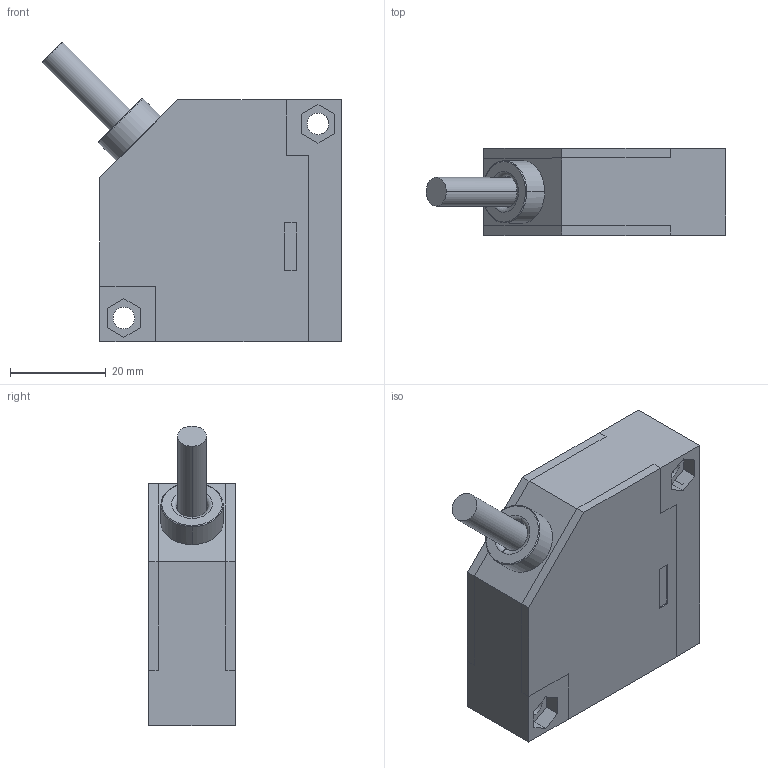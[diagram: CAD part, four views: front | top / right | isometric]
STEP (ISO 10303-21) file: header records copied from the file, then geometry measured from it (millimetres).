
FILE_DESCRIPTION((''),'2;1');
FILE_NAME('EJ-T50N1_EJ-T5N1_EJ-T50N2_EJ-T5_ASM','2018-08-13T11:04:32',('Administrator'),(''),'CREO PARAMETRIC BY PTC INC, 2016390','CREO PARAMETRIC BY PTC INC, 2016390','');
FILE_SCHEMA(('CONFIG_CONTROL_DESIGN'));
Length unit declared in the file: millimetre
Products named in the file (8): EJ-30N1-MAINBODY_141_1; EJ-30N1-MAINBODY_141_2; EJ-30N1-MAINBODY_141_ASM; EJ-30N1-GLASS_42; EJ_COVER_2; PRT0001_2; ASMEJ-30N1_ASM_111_ASM; EJ-T50N1_EJ-T5N1_EJ-T50N2_EJ-T5_ASM
Assembly tree (7 placements, depth 4):
  EJ-T50N1_EJ-T5N1_EJ-T50N2_EJ-T5_ASM
    ASMEJ-30N1_ASM_111_ASM
      EJ-30N1-MAINBODY_141_ASM
        EJ-30N1-MAINBODY_141_1
        EJ-30N1-MAINBODY_141_2
      EJ-30N1-GLASS_42
      EJ_COVER_2
      PRT0001_2
Bounding box: 62.55 x 18.1 x 62.55 mm (x, y, z)
Volume: 18583.2 mm3; surface area: 20500.7 mm2
Topology: 5 solids, 5 shells, 208 faces, 579 edges, 381 vertices
Faces by surface type: plane 171, cylinder 20, cone 9, torus 4, sphere 4
Entity records: 7046 total; most frequent: CARTESIAN_POINT 1447, ORIENTED_EDGE 1150, DIRECTION 1098, EDGE_CURVE 575, VECTOR 466, LINE 466, VERTEX_POINT 381, AXIS2_PLACEMENT_3D 316
